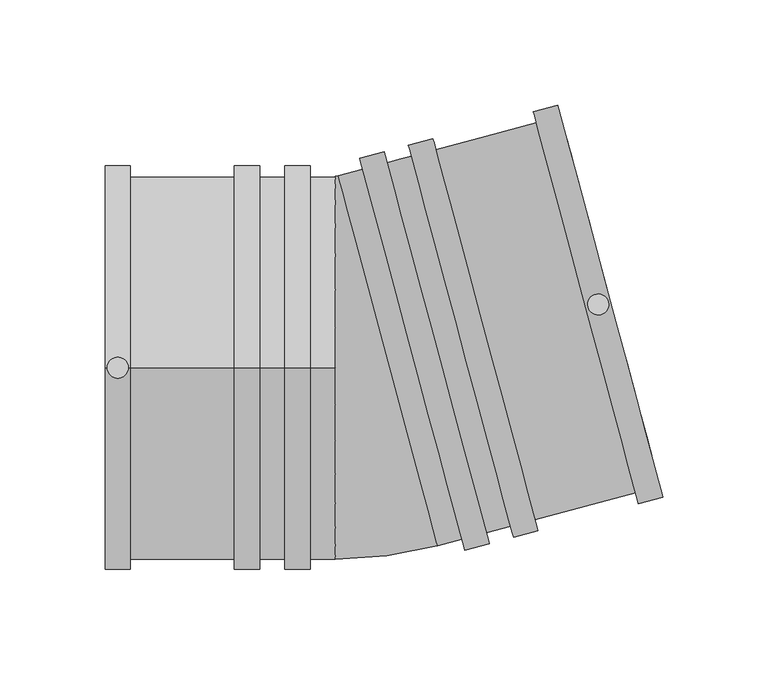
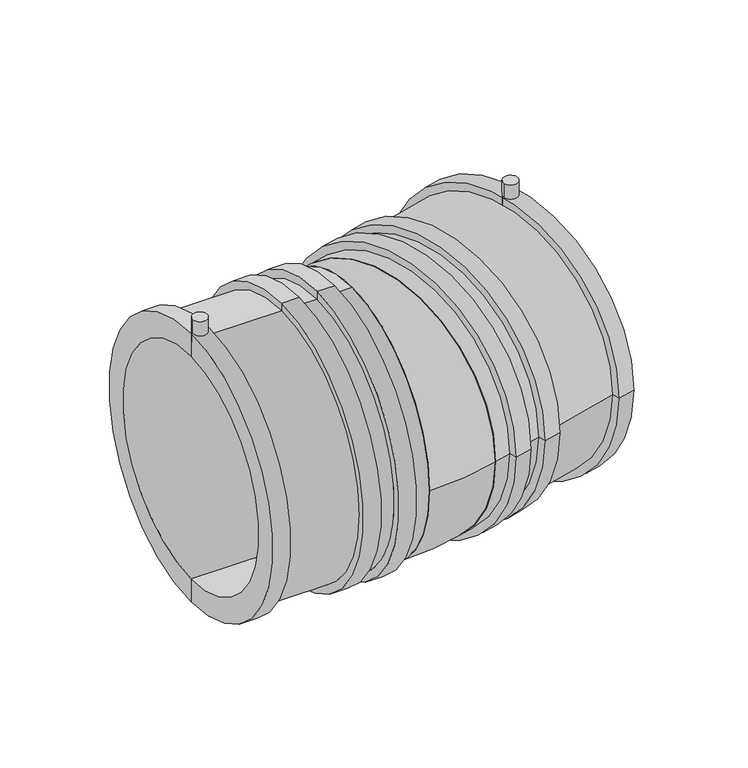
"""IFC4 building model written with IfcOpenShell, lengths in millimetres: pipe fitting geometry, Plumbing_Pipe-Fittings_Plasson_LightFit-Elbow-15_46370 : Plumbing_Pipe-Fittings_Plasson_LightFit-Elbow-15_46370."""

from ifc_helpers import new_model, si_unit, point, frame, frame_2d, origin, place, context, project, spatial, polyline, circle_curve, ellipse_curve, trimmed, segment, composite_curve, outline, extrude, source, transform, mapped, element, save
from ifc_brep_helpers import plane_surface, cylinder_surface, revolved_surface, advanced_brep


def pipe_fitting_a7ee65fd(model_context):
    return source(origin(), model_context, "Body", "SolidModel", [
        extrude(outline(composite_curve([segment(trimmed(circle_curve(frame_2d((-116.2176313, 0.0)), 5.0), [point((-121.2176313, 0.0))], [point((-111.2176313, 0.0))], False, "CARTESIAN"), True, "CONTINUOUS"), segment(trimmed(circle_curve(frame_2d((-116.2176313, 0.0)), 5.0), [point((-111.2176313, 0.0))], [point((-121.2176313, 0.0))], False, "CARTESIAN"), True, "CONTINUOUS")], self_intersect=False)), frame((0.0, 0.0, 88.25), z_axis=(0.0, 0.0, 1.0), x_axis=(1.0, 0.0, 0.0)), (0.0, 0.0, 1.0), 17.75),
        extrude(outline(composite_curve([segment(trimmed(circle_curve(frame_2d((112.2576115, 30.0793363)), 5.0), [point((107.4279824, 28.7852411))], [point((117.0872406, 31.3734316))], False, "CARTESIAN"), True, "CONTINUOUS"), segment(trimmed(circle_curve(frame_2d((112.2576115, 30.0793363)), 5.0), [point((117.0872406, 31.3734316))], [point((107.4279824, 28.7852411))], False, "CARTESIAN"), True, "CONTINUOUS")], self_intersect=False)), frame((0.0, 0.0, 88.25), z_axis=(0.0, 0.0, 1.0), x_axis=(1.0, 0.0, 0.0)), (0.0, 0.0, 1.0), 17.75),
        advanced_brep(
        [(138.7586901, -45.6418155, 0.0), (97.3476429, 108.9063167, 0.0), (-8.4212351, 80.5656313, 0.0), (32.9898121, -73.9825009, 0.0), (143.0292043, -61.5795916, 0.0), (93.0771286, 124.8440929, 0.0), (131.4380944, -64.6854202, 0.0), (81.4860187, 121.7382643, 0.0), (130.0404716, -59.4694207, 0.0), (82.8836415, 116.5222649, 0.0), (82.1973686, -72.2889415, 0.0), (35.0405386, 103.7027441, 0.0), (-11.2941265, 91.287408, 0.0), (35.8627035, -84.7042776, 0.0), (83.5949915, -77.5049409, 0.0), (33.6429158, 108.9187435, 0.0), (72.0038816, -80.6107695, 0.0), (22.0518059, 105.812915, 0.0), (70.6062587, -75.39477, 0.0), (23.4494287, 100.5969155, 0.0), (59.0151488, -78.5005986, 0.0), (11.8583188, 97.491087, 0.0), (60.4127717, -83.716598, 0.0), (10.460696, 102.7070864, 0.0), (48.8216617, -86.8224266, 0.0), (-1.130414, 99.6012579, 0.0), (47.4240389, -81.6064271, 0.0), (0.2672089, 94.3852584, 0.0)],
        [
            (0, 1, circle_curve(frame((118.0531665, 31.6322506, 0.0), z_axis=(0.9659258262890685, 0.2588190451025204, 0.0), x_axis=(-0.2588190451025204, 0.9659258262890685, 0.0)), 80.0)),
            (1, 2),
            (2, 3, circle_curve(frame((12.2842885, 3.2915652, 0.0), z_axis=(-0.9659258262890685, -0.2588190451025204, 0.0), x_axis=(-0.2588190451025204, 0.9659258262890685, 0.0)), 80.0)),
            (3, 0),
            (1, 0, circle_curve(frame((118.0531665, 31.6322506, 0.0), z_axis=(0.9659258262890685, 0.2588190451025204, 0.0), x_axis=(-0.2588190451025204, 0.9659258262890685, 0.0)), 80.0)),
            (3, 2, circle_curve(frame((12.2842885, 3.2915652, 0.0), z_axis=(-0.9659258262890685, -0.2588190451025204, 0.0), x_axis=(-0.2588190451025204, 0.9659258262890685, 0.0)), 80.0)),
            (4, 5, circle_curve(frame((118.0531665, 31.6322506, 0.0), z_axis=(0.9659258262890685, 0.2588190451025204, 0.0), x_axis=(-0.2588190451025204, 0.9659258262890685, 0.0)), 96.5)),
            (5, 1),
            (0, 4),
            (5, 4, circle_curve(frame((118.0531665, 31.6322506, 0.0), z_axis=(0.9659258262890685, 0.2588190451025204, 0.0), x_axis=(-0.2588190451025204, 0.9659258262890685, 0.0)), 96.5)),
            (6, 7, circle_curve(frame((106.4620566, 28.5264221, 0.0), z_axis=(0.9659258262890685, 0.2588190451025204, 0.0), x_axis=(-0.2588190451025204, 0.9659258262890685, 0.0)), 96.5)),
            (7, 5),
            (4, 6),
            (7, 6, circle_curve(frame((106.4620566, 28.5264221, 0.0), z_axis=(0.9659258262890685, 0.2588190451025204, 0.0), x_axis=(-0.2588190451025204, 0.9659258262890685, 0.0)), 96.5)),
            (8, 9, circle_curve(frame((106.4620566, 28.5264221, 0.0), z_axis=(0.9659258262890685, 0.2588190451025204, 0.0), x_axis=(-0.2588190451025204, 0.9659258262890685, 0.0)), 91.1)),
            (9, 7),
            (6, 8),
            (9, 8, circle_curve(frame((106.4620566, 28.5264221, 0.0), z_axis=(0.9659258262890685, 0.2588190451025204, 0.0), x_axis=(-0.2588190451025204, 0.9659258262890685, 0.0)), 91.1)),
            (10, 11, circle_curve(frame((58.6189536, 15.7069013, 0.0), z_axis=(0.9659258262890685, 0.2588190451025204, 0.0), x_axis=(-0.2588190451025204, 0.9659258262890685, 0.0)), 91.1)),
            (11, 9),
            (8, 10),
            (11, 10, circle_curve(frame((58.6189536, 15.7069013, 0.0), z_axis=(0.9659258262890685, 0.2588190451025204, 0.0), x_axis=(-0.2588190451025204, 0.9659258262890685, 0.0)), 91.1)),
            (2, 12),
            (12, 13, circle_curve(frame((12.2842885, 3.2915652, 0.0), z_axis=(-0.9659258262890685, -0.2588190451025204, 0.0), x_axis=(-0.2588190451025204, 0.9659258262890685, 0.0)), 91.1)),
            (13, 3),
            (13, 12, circle_curve(frame((12.2842885, 3.2915652, 0.0), z_axis=(-0.9659258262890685, -0.2588190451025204, 0.0), x_axis=(-0.2588190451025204, 0.9659258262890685, 0.0)), 91.1)),
            (14, 15, circle_curve(frame((58.6189536, 15.7069013, 0.0), z_axis=(0.9659258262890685, 0.2588190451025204, 0.0), x_axis=(-0.2588190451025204, 0.9659258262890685, 0.0)), 96.5)),
            (15, 11),
            (10, 14),
            (15, 14, circle_curve(frame((58.6189536, 15.7069013, 0.0), z_axis=(0.9659258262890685, 0.2588190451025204, 0.0), x_axis=(-0.2588190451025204, 0.9659258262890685, 0.0)), 96.5)),
            (16, 17, circle_curve(frame((47.0278437, 12.6010727, 0.0), z_axis=(0.9659258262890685, 0.2588190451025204, 0.0), x_axis=(-0.2588190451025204, 0.9659258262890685, 0.0)), 96.5)),
            (17, 15),
            (14, 16),
            (17, 16, circle_curve(frame((47.0278437, 12.6010727, 0.0), z_axis=(0.9659258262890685, 0.2588190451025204, 0.0), x_axis=(-0.2588190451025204, 0.9659258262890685, 0.0)), 96.5)),
            (18, 19, circle_curve(frame((47.0278437, 12.6010727, 0.0), z_axis=(0.9659258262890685, 0.2588190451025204, 0.0), x_axis=(-0.2588190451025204, 0.9659258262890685, 0.0)), 91.1)),
            (19, 17),
            (16, 18),
            (19, 18, circle_curve(frame((47.0278437, 12.6010727, 0.0), z_axis=(0.9659258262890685, 0.2588190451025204, 0.0), x_axis=(-0.2588190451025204, 0.9659258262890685, 0.0)), 91.1)),
            (20, 21, circle_curve(frame((35.4367338, 9.4952442, 0.0), z_axis=(0.9659258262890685, 0.2588190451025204, 0.0), x_axis=(-0.2588190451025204, 0.9659258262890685, 0.0)), 91.1)),
            (21, 19),
            (18, 20),
            (21, 20, circle_curve(frame((35.4367338, 9.4952442, 0.0), z_axis=(0.9659258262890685, 0.2588190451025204, 0.0), x_axis=(-0.2588190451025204, 0.9659258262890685, 0.0)), 91.1)),
            (22, 23, circle_curve(frame((35.4367338, 9.4952442, 0.0), z_axis=(0.9659258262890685, 0.2588190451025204, 0.0), x_axis=(-0.2588190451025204, 0.9659258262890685, 0.0)), 96.5)),
            (23, 21),
            (20, 22),
            (23, 22, circle_curve(frame((35.4367338, 9.4952442, 0.0), z_axis=(0.9659258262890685, 0.2588190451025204, 0.0), x_axis=(-0.2588190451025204, 0.9659258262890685, 0.0)), 96.5)),
            (24, 25, circle_curve(frame((23.8456239, 6.3894157, 0.0), z_axis=(0.9659258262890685, 0.2588190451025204, 0.0), x_axis=(-0.2588190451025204, 0.9659258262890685, 0.0)), 96.5)),
            (25, 23),
            (22, 24),
            (25, 24, circle_curve(frame((23.8456239, 6.3894157, 0.0), z_axis=(0.9659258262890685, 0.2588190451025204, 0.0), x_axis=(-0.2588190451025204, 0.9659258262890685, 0.0)), 96.5)),
            (26, 27, circle_curve(frame((23.8456239, 6.3894157, 0.0), z_axis=(0.9659258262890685, 0.2588190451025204, 0.0), x_axis=(-0.2588190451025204, 0.9659258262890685, 0.0)), 91.1)),
            (27, 25),
            (24, 26),
            (27, 26, circle_curve(frame((23.8456239, 6.3894157, 0.0), z_axis=(0.9659258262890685, 0.2588190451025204, 0.0), x_axis=(-0.2588190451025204, 0.9659258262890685, 0.0)), 91.1)),
            (12, 27),
            (26, 13),
        ],
        [
            revolved_surface(polyline([(-8.421235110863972, 80.56563128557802, 0.0), (97.34764289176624, 108.90631673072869, 0.0)]), (0.0, 0.0, 0.0), (-0.9659258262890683, -0.25881904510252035, 0.0)),
            plane_surface(frame((118.0531665, 31.6322506, 0.0), z_axis=(0.9659258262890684, 0.2588190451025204, 0.0), x_axis=(-0.2588190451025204, 0.9659258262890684, 0.0))),
            cylinder_surface(frame((0.0, 0.0, 0.0), z_axis=(-0.9659258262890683, -0.25881904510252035, 0.0), x_axis=(-0.2588190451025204, 0.9659258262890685, 0.0)), 96.5),
            plane_surface(frame((106.4620566, 28.5264221, 0.0), z_axis=(-0.9659258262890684, -0.2588190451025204, 0.0), x_axis=(-0.2588190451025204, 0.9659258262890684, 0.0))),
            cylinder_surface(frame((0.0, 0.0, 0.0), z_axis=(-0.9659258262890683, -0.25881904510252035, 0.0), x_axis=(-0.2588190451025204, 0.9659258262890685, 0.0)), 91.1),
            plane_surface(frame((12.2842885, 3.2915652, 0.0), z_axis=(-0.9659258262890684, -0.2588190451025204, 0.0), x_axis=(-0.2588190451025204, 0.9659258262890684, 0.0))),
            plane_surface(frame((58.6189536, 15.7069013, 0.0), z_axis=(0.9659258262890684, 0.2588190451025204, 0.0), x_axis=(-0.2588190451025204, 0.9659258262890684, 0.0))),
            plane_surface(frame((47.0278437, 12.6010727, 0.0), z_axis=(-0.9659258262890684, -0.2588190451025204, 0.0), x_axis=(-0.2588190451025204, 0.9659258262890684, 0.0))),
            plane_surface(frame((35.4367338, 9.4952442, 0.0), z_axis=(0.9659258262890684, 0.2588190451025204, 0.0), x_axis=(-0.2588190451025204, 0.9659258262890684, 0.0))),
            plane_surface(frame((23.8456239, 6.3894157, 0.0), z_axis=(-0.9659258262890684, -0.2588190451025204, 0.0), x_axis=(-0.2588190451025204, 0.9659258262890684, 0.0))),
        ],
        [
            (0, [[1, 2, 3, 4]]),
            (0, [[5, -4, 6, -2]]),
            (1, [[7, 8, -1, 9]]),
            (1, [[10, -9, -5, -8]]),
            (2, [[11, 12, -7, 13]]),
            (2, [[14, -13, -10, -12]]),
            (3, [[15, 16, -11, 17]]),
            (3, [[18, -17, -14, -16]]),
            (4, [[19, 20, -15, 21]]),
            (4, [[22, -21, -18, -20]]),
            (5, [[-3, 23, 24, 25]]),
            (5, [[-6, -25, 26, -23]]),
            (6, [[27, 28, -19, 29]]),
            (6, [[30, -29, -22, -28]]),
            (2, [[31, 32, -27, 33]]),
            (2, [[34, -33, -30, -32]]),
            (7, [[35, 36, -31, 37]]),
            (7, [[38, -37, -34, -36]]),
            (4, [[39, 40, -35, 41]]),
            (4, [[42, -41, -38, -40]]),
            (8, [[43, 44, -39, 45]]),
            (8, [[46, -45, -42, -44]]),
            (2, [[47, 48, -43, 49]]),
            (2, [[50, -49, -46, -48]]),
            (9, [[51, 52, -47, 53]]),
            (9, [[54, -53, -50, -52]]),
            (4, [[-24, 55, -51, 56]]),
            (4, [[-26, -56, -54, -55]]),
        ],
    ),
        advanced_brep(
        [(-12.7176313, -91.0, 0.0), (-12.7176313, 91.0, 0.0), (35.8368216, -84.607685, 0.0), (-11.2682446, 91.1908154, 0.0)],
        [
            (0, 1, circle_curve(frame((-12.7176313, 0.0, 0.0), z_axis=(-1.0, 0.0, 0.0), x_axis=(0.0, 1.0, 0.0)), 91.0)),
            (1, 0, circle_curve(frame((-12.7176313, 0.0, 0.0), z_axis=(-1.0, 0.0, 0.0), x_axis=(0.0, 1.0, 0.0)), 91.0)),
            (2, 3, circle_curve(frame((12.2842885, 3.2915652, 0.0), z_axis=(0.9659258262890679, 0.2588190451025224, 0.0), x_axis=(-0.2588190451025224, 0.9659258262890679, 0.0)), 91.0)),
            (3, 2, circle_curve(frame((12.2842885, 3.2915652, 0.0), z_axis=(0.9659258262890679, 0.2588190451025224, 0.0), x_axis=(-0.2588190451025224, 0.9659258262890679, 0.0)), 91.0)),
            (3, 1, circle_curve(frame((-12.7176313, 96.6, 0.0), z_axis=(0.0, 0.0, -1.0), x_axis=(0.0, -1.0, 0.0)), 5.6)),
            (0, 2, circle_curve(frame((-12.7176313, 96.6, 0.0), z_axis=(0.0, 0.0, 1.0), x_axis=(0.0, -1.0, 0.0)), 187.6)),
        ],
        [
            plane_surface(frame((-12.7176313, 0.0, 0.0), z_axis=(-1.0, 0.0, 0.0), x_axis=(0.0, 0.0, 1.0))),
            plane_surface(frame((12.2842885, 3.2915652, 0.0), z_axis=(0.9659258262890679, 0.2588190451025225, 0.0), x_axis=(0.0, 0.0, 1.0))),
            revolved_surface(trimmed(ellipse_curve(frame((-12.7176313, 0.0, 0.0), z_axis=(-1.0, 0.0, 0.0), x_axis=(0.0, 1.0, 0.0)), 91.0, 91.0), [point((-12.7176313, -91.0, 0.0))], [point((-12.7176313, 91.0, 0.0))], True, "CARTESIAN"), (-12.7176313, 96.6, 0.0), (0.0, 0.0, 1.0)),
            revolved_surface(trimmed(ellipse_curve(frame((-12.7176313, 0.0, 0.0), z_axis=(-1.0, 0.0, 0.0), x_axis=(0.0, 1.0, 0.0)), 91.0, 91.0), [point((-12.7176313, 91.0, 0.0))], [point((-12.7176313, -91.0, 0.0))], True, "CARTESIAN"), (-12.7176313, 96.6, 0.0), (0.0, 0.0, 1.0)),
        ],
        [
            (0, [[1, 2]]),
            (1, [[3, 4]]),
            (2, [[5, -1, 6, -4]]),
            (3, [[-6, -2, -5, -3]]),
        ],
    ),
        advanced_brep(
        [(-12.7176313, 0.0, -80.0), (-12.7176313, 0.0, 80.0), (-122.2176313, 0.0, 80.0), (-122.2176313, 0.0, -80.0), (-110.2176313, 0.0, -91.0), (-110.2176313, 0.0, 91.0), (-60.7176313, 0.0, 91.0), (-60.7176313, 0.0, -91.0), (-110.2176313, 0.0, -96.5), (-110.2176313, 0.0, 96.5), (-122.2176313, 0.0, -96.5), (-122.2176313, 0.0, 96.5), (-12.7176313, 0.0, -91.0), (-12.7176313, 0.0, 91.0), (-36.7176313, 0.0, -96.5), (-36.7176313, 0.0, 96.5), (-24.7337822, 0.0, 96.5), (-24.7337822, 0.0, -96.5), (-36.7176313, 0.0, -91.0), (-36.7176313, 0.0, 91.0), (-48.7176313, 0.0, -91.0), (-48.7176313, 0.0, 91.0), (-48.7176313, 0.0, -96.5), (-48.7176313, 0.0, 96.5), (-60.7176313, 0.0, -96.5), (-60.7176313, 0.0, 96.5), (-24.7337822, 0.0, -91.0), (-24.7337822, 0.0, 91.0)],
        [
            (0, 1, circle_curve(frame((-12.7176313, 0.0, 0.0), z_axis=(1.0, 0.0, 0.0), x_axis=(0.0, 0.0, 1.0)), 80.0)),
            (1, 2),
            (2, 3, circle_curve(frame((-122.2176313, 0.0, 0.0), z_axis=(-1.0, 0.0, 0.0), x_axis=(0.0, 0.0, 1.0)), 80.0)),
            (3, 0),
            (1, 0, circle_curve(frame((-12.7176313, 0.0, 0.0), z_axis=(1.0, 0.0, 0.0), x_axis=(0.0, 0.0, 1.0)), 80.0)),
            (3, 2, circle_curve(frame((-122.2176313, 0.0, 0.0), z_axis=(-1.0, 0.0, 0.0), x_axis=(0.0, 0.0, 1.0)), 80.0)),
            (4, 5, circle_curve(frame((-110.2176313, 0.0, 0.0), z_axis=(1.0, 0.0, 0.0), x_axis=(0.0, 0.0, 1.0)), 91.0)),
            (5, 6),
            (6, 7, circle_curve(frame((-60.7176313, 0.0, 0.0), z_axis=(-1.0, 0.0, 0.0), x_axis=(0.0, 0.0, 1.0)), 91.0)),
            (7, 4),
            (5, 4, circle_curve(frame((-110.2176313, 0.0, 0.0), z_axis=(1.0, 0.0, 0.0), x_axis=(0.0, 0.0, 1.0)), 91.0)),
            (7, 6, circle_curve(frame((-60.7176313, 0.0, 0.0), z_axis=(-1.0, 0.0, 0.0), x_axis=(0.0, 0.0, 1.0)), 91.0)),
            (8, 9, circle_curve(frame((-110.2176313, 0.0, 0.0), z_axis=(1.0, 0.0, 0.0), x_axis=(0.0, 0.0, 1.0)), 96.5)),
            (9, 5),
            (4, 8),
            (9, 8, circle_curve(frame((-110.2176313, 0.0, 0.0), z_axis=(1.0, 0.0, 0.0), x_axis=(0.0, 0.0, 1.0)), 96.5)),
            (10, 11, circle_curve(frame((-122.2176313, 0.0, 0.0), z_axis=(1.0, 0.0, 0.0), x_axis=(0.0, 0.0, 1.0)), 96.5)),
            (11, 9),
            (8, 10),
            (11, 10, circle_curve(frame((-122.2176313, 0.0, 0.0), z_axis=(1.0, 0.0, 0.0), x_axis=(0.0, 0.0, 1.0)), 96.5)),
            (2, 11),
            (10, 3),
            (12, 13, circle_curve(frame((-12.7176313, 0.0, 0.0), z_axis=(1.0, 0.0, 0.0), x_axis=(0.0, 0.0, 1.0)), 91.0)),
            (13, 1),
            (0, 12),
            (13, 12, circle_curve(frame((-12.7176313, 0.0, 0.0), z_axis=(1.0, 0.0, 0.0), x_axis=(0.0, 0.0, 1.0)), 91.0)),
            (14, 15, circle_curve(frame((-36.7176313, 0.0, 0.0), z_axis=(1.0, 0.0, 0.0), x_axis=(0.0, 0.0, 1.0)), 96.5)),
            (15, 16),
            (16, 17, circle_curve(frame((-24.7337822, 0.0, 0.0), z_axis=(-1.0, 0.0, 0.0), x_axis=(0.0, 0.0, 1.0)), 96.5)),
            (17, 14),
            (15, 14, circle_curve(frame((-36.7176313, 0.0, 0.0), z_axis=(1.0, 0.0, 0.0), x_axis=(0.0, 0.0, 1.0)), 96.5)),
            (17, 16, circle_curve(frame((-24.7337822, 0.0, 0.0), z_axis=(-1.0, 0.0, 0.0), x_axis=(0.0, 0.0, 1.0)), 96.5)),
            (18, 19, circle_curve(frame((-36.7176313, 0.0, 0.0), z_axis=(1.0, 0.0, 0.0), x_axis=(0.0, 0.0, 1.0)), 91.0)),
            (19, 15),
            (14, 18),
            (19, 18, circle_curve(frame((-36.7176313, 0.0, 0.0), z_axis=(1.0, 0.0, 0.0), x_axis=(0.0, 0.0, 1.0)), 91.0)),
            (20, 21, circle_curve(frame((-48.7176313, 0.0, 0.0), z_axis=(1.0, 0.0, 0.0), x_axis=(0.0, 0.0, 1.0)), 91.0)),
            (21, 19),
            (18, 20),
            (21, 20, circle_curve(frame((-48.7176313, 0.0, 0.0), z_axis=(1.0, 0.0, 0.0), x_axis=(0.0, 0.0, 1.0)), 91.0)),
            (22, 23, circle_curve(frame((-48.7176313, 0.0, 0.0), z_axis=(1.0, 0.0, 0.0), x_axis=(0.0, 0.0, 1.0)), 96.5)),
            (23, 21),
            (20, 22),
            (23, 22, circle_curve(frame((-48.7176313, 0.0, 0.0), z_axis=(1.0, 0.0, 0.0), x_axis=(0.0, 0.0, 1.0)), 96.5)),
            (24, 25, circle_curve(frame((-60.7176313, 0.0, 0.0), z_axis=(1.0, 0.0, 0.0), x_axis=(0.0, 0.0, 1.0)), 96.5)),
            (25, 23),
            (22, 24),
            (25, 24, circle_curve(frame((-60.7176313, 0.0, 0.0), z_axis=(1.0, 0.0, 0.0), x_axis=(0.0, 0.0, 1.0)), 96.5)),
            (6, 25),
            (24, 7),
            (26, 27, circle_curve(frame((-24.7337822, 0.0, 0.0), z_axis=(1.0, 0.0, 0.0), x_axis=(0.0, 0.0, 1.0)), 91.0)),
            (27, 13),
            (12, 26),
            (27, 26, circle_curve(frame((-24.7337822, 0.0, 0.0), z_axis=(1.0, 0.0, 0.0), x_axis=(0.0, 0.0, 1.0)), 91.0)),
            (16, 27),
            (26, 17),
        ],
        [
            revolved_surface(polyline([(-122.2176313, 0.0, 80.0), (-12.717631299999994, 0.0, 80.0)]), (-122.2176313, 0.0, 0.0), (-1.0, 0.0, 0.0)),
            cylinder_surface(frame((-122.2176313, 0.0, 0.0), z_axis=(-1.0, 0.0, 0.0), x_axis=(0.0, 0.0, 1.0)), 91.0),
            plane_surface(frame((-110.2176313, 0.0, 0.0), z_axis=(1.0, 0.0, 0.0), x_axis=(0.0, 0.0, 1.0))),
            cylinder_surface(frame((-122.2176313, 0.0, 0.0), z_axis=(-1.0, 0.0, 0.0), x_axis=(0.0, 0.0, 1.0)), 96.5),
            plane_surface(frame((-122.2176313, 0.0, 0.0), z_axis=(-1.0, 0.0, 0.0), x_axis=(0.0, 0.0, 1.0))),
            plane_surface(frame((-12.7176313, 0.0, 0.0), z_axis=(1.0, 0.0, 0.0), x_axis=(0.0, 0.0, 1.0))),
            plane_surface(frame((-36.7176313, 0.0, 0.0), z_axis=(-1.0, 0.0, 0.0), x_axis=(0.0, 0.0, 1.0))),
            plane_surface(frame((-48.7176313, 0.0, 0.0), z_axis=(1.0, 0.0, 0.0), x_axis=(0.0, 0.0, 1.0))),
            plane_surface(frame((-60.7176313, 0.0, 0.0), z_axis=(-1.0, 0.0, 0.0), x_axis=(0.0, 0.0, 1.0))),
            plane_surface(frame((-24.7337822, 0.0, 0.0), z_axis=(1.0, 0.0, 0.0), x_axis=(0.0, 0.0, 1.0))),
        ],
        [
            (0, [[1, 2, 3, 4]]),
            (0, [[5, -4, 6, -2]]),
            (1, [[7, 8, 9, 10]]),
            (1, [[11, -10, 12, -8]]),
            (2, [[13, 14, -7, 15]]),
            (2, [[16, -15, -11, -14]]),
            (3, [[17, 18, -13, 19]]),
            (3, [[20, -19, -16, -18]]),
            (4, [[-3, 21, -17, 22]]),
            (4, [[-6, -22, -20, -21]]),
            (5, [[23, 24, -1, 25]]),
            (5, [[26, -25, -5, -24]]),
            (3, [[27, 28, 29, 30]]),
            (3, [[31, -30, 32, -28]]),
            (6, [[33, 34, -27, 35]]),
            (6, [[36, -35, -31, -34]]),
            (1, [[37, 38, -33, 39]]),
            (1, [[40, -39, -36, -38]]),
            (7, [[41, 42, -37, 43]]),
            (7, [[44, -43, -40, -42]]),
            (3, [[45, 46, -41, 47]]),
            (3, [[48, -47, -44, -46]]),
            (8, [[-9, 49, -45, 50]]),
            (8, [[-12, -50, -48, -49]]),
            (1, [[51, 52, -23, 53]]),
            (1, [[54, -53, -26, -52]]),
            (9, [[-29, 55, -51, 56]]),
            (9, [[-32, -56, -54, -55]]),
        ],
    ),
    ])


if __name__ == "__main__":
    model = new_model("IFC4")
    model_context = context("Model", 3, world=origin())
    ifc_project = project(units=[si_unit("LENGTHUNIT", "METRE", prefix="MILLI")], contexts=[model_context])
    site = spatial("IfcSite", under=ifc_project)
    building = spatial("IfcBuilding", under=site)
    placement = place(None, origin())
    pipe_fitting_shape = pipe_fitting_a7ee65fd(model_context)
    element("IfcPipeFitting", 1, ObjectType="Plumbing_Pipe-Fittings_Plasson_LightFit-Elbow-15_46370 : Plumbing_Pipe-Fittings_Plasson_LightFit-Elbow-15_46370", at=placement, inside=building, context=model_context, shape_type="MappedRepresentation", body=[
        mapped(pipe_fitting_shape, transform((0.0, 0.0, 0.0), x_axis=(1.0, 0.0, 0.0), y_axis=(0.0, 1.0, 0.0), z_axis=(0.0, 0.0, 1.0))),
    ])
    save(model, "model.ifc")
